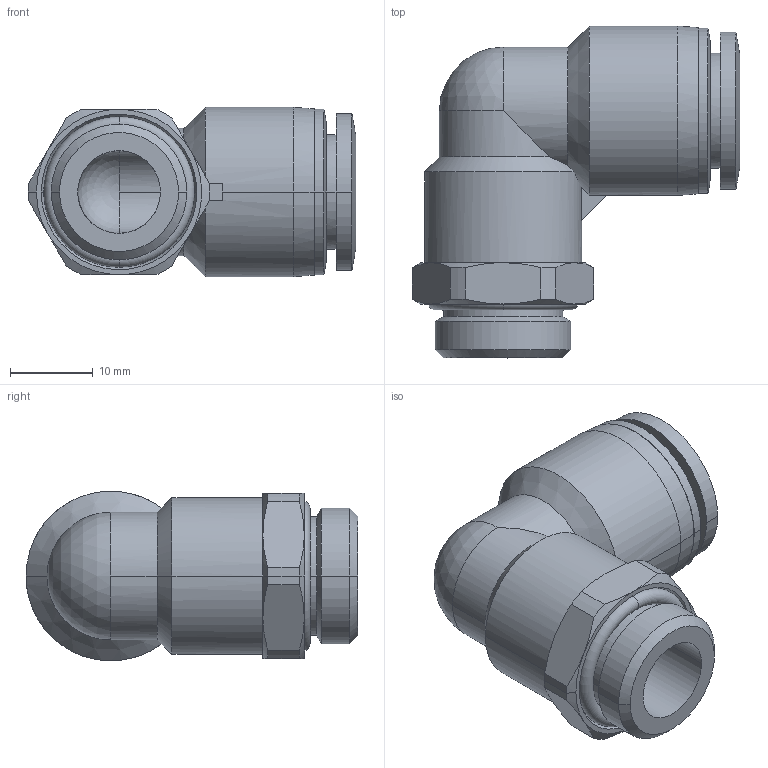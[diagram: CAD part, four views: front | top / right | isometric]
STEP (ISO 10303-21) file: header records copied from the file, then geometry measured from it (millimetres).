
FILE_DESCRIPTION (( 'STEP AP203' ), '1' );
FILE_NAME ('FL12-03.STEP', '2020-05-06T15:05:07', ( '' ), ( '' ), 'SwSTEP 2.0', 'SolidWorks 2019', '' );
FILE_SCHEMA (( 'CONFIG_CONTROL_DESIGN' ));
Length unit declared in the file: millimetre
Products named in the file (1): FL12-03
Bounding box: 39.65 x 40.15 x 20.5 mm (x, y, z)
Surface area: 6537.9 mm2 (no closed solid volume)
Topology: 0 solids, 4 shells, 90 faces, 215 edges, 133 vertices
Faces by surface type: cylinder 33, cone 30, plane 19, torus 4, bspline 2, sphere 2
Entity records: 4553 total; most frequent: CARTESIAN_POINT 2767, ORIENTED_EDGE 410, DIRECTION 227, EDGE_CURVE 213, B_SPLINE_CURVE_WITH_KNOTS 162, VERTEX_POINT 133, EDGE_LOOP 100, AXIS2_PLACEMENT_3D 93
